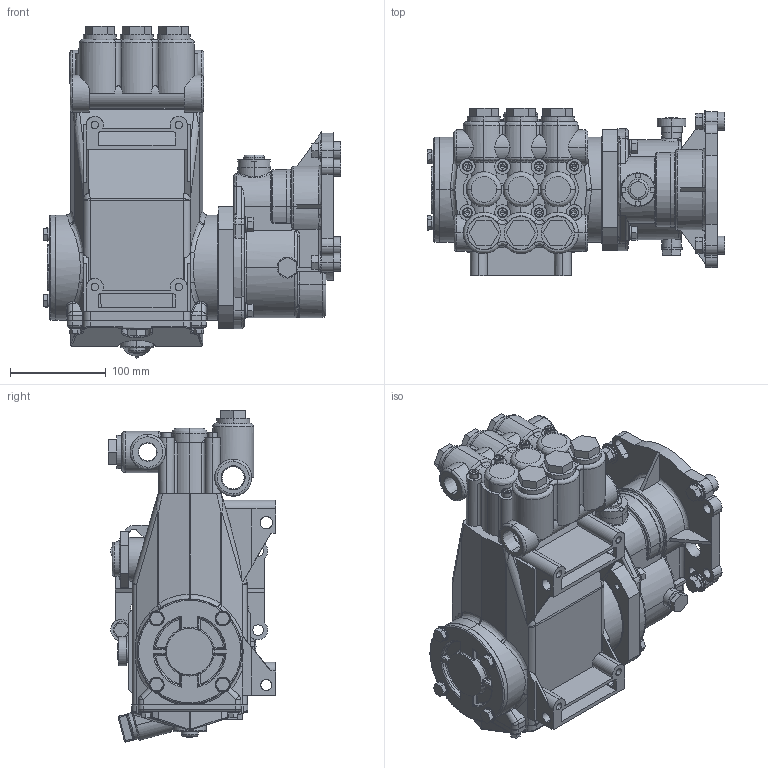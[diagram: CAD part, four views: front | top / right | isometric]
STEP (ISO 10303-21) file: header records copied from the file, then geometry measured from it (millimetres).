
FILE_DESCRIPTION (( 'STEP AP214' ), '1' );
FILE_NAME ('7CP6111G1.STEP', '2017-09-27T12:58:02', ( '' ), ( '' ), 'SwSTEP 2.0', 'SolidWorks 2017', '' );
FILE_SCHEMA (( 'AUTOMOTIVE_DESIGN' ));
Length unit declared in the file: millimetre
Products named in the file (3): 7CP6111G1; 7CP6111; 008081
Assembly tree (2 placements, depth 2):
  7CP6111G1
    7CP6111
    008081
Bounding box: 311.58 x 175.01 x 347.34 mm (x, y, z)
Volume: 1565031.9 mm3; surface area: 508548.3 mm2
Topology: 4 solids, 19 shells, 1861 faces, 4698 edges, 2914 vertices
Faces by surface type: plane 781, cylinder 700, bspline 300, cone 80
Entity records: 103819 total; most frequent: CARTESIAN_POINT 41648, ORIENTED_EDGE 9126, DIRECTION 7961, EDGE_CURVE 4658, AXIS2_PLACEMENT_3D 2929, VERTEX_POINT 2914, LINE 2103, VECTOR 2103
